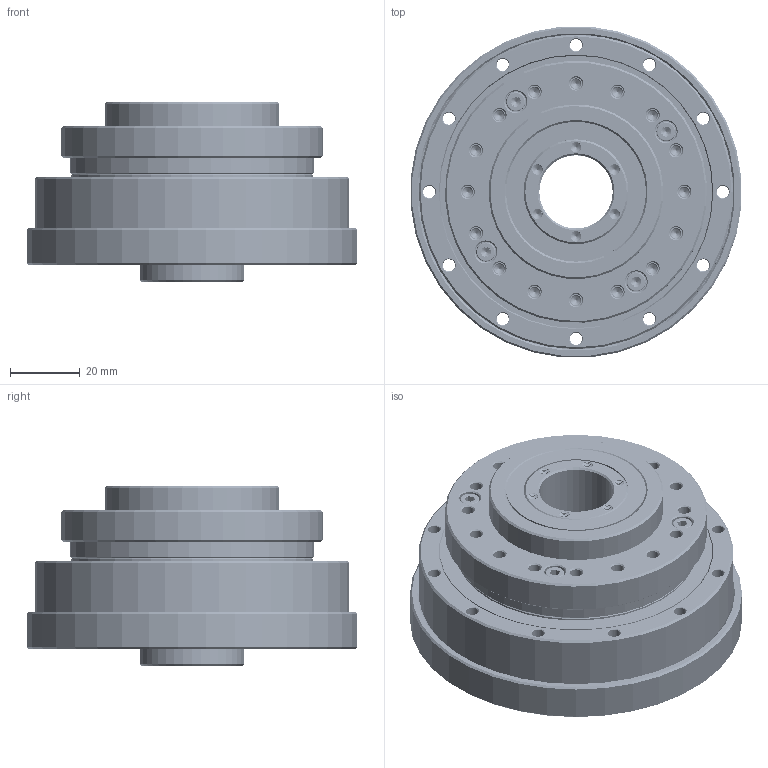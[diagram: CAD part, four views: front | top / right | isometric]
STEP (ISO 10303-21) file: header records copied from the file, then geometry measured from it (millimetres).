
FILE_DESCRIPTION(/* description */ (''),/* implementation_level */ '2;1');
FILE_NAME(/* name */ 'LHT-20-XX-U-III.stp',/* time_stamp */ '2023-07-29T10:55:30+08:00',/* author */ (''),/* organization */ (''),/* preprocessor_version */ 'ST-DEVELOPER v16.7',/* originating_system */ 'SIEMENS PLM Software NX 12.0',/* authorisation */ '');
FILE_SCHEMA (('AUTOMOTIVE_DESIGN { 1 0 10303 214 3 1 1 1 }'));
Products named in the file (19): EB375007-20KC-46; EB375007-20KC-01; TC-69x78x5; SC-30x40x4; GB-T70.1-2000,M3x12; 内六角平圆头螺钉M3x10; GB-T276_60000_2RZ-1994,61806_2RZ; LHT-20-00-III下壳体; LHT-20-00-III上壳体; LHT-20-XX-III; 内六角平圆头螺钉M3x8(4.5mm头径); O-75x1.5; O-55x0.5; GB-T70.1-2000,M3x10; 柔轮LHT-20; 刚轮LHT-20; EB375007-20KC; 交叉轴承LHT-20; LHT-20-XX-U-III
Assembly tree (32 placements, depth 3):
  LHT-20-XX-U-III
    交叉轴承LHT-20
      TC-69x78x5
    刚轮LHT-20
    柔轮LHT-20
    EB375007-20KC
      EB375007-20KC-01
      EB375007-20KC-46
    GB-T70.1-2000,M3x10  x4
    O-55x0.5
    O-75x1.5
    内六角平圆头螺钉M3x8(4.5mm头径)  x4
    LHT-20-XX-III
    LHT-20-00-III上壳体
    LHT-20-00-III下壳体
    GB-T276_60000_2RZ-1994,61806_2RZ  x2
    内六角平圆头螺钉M3x10  x4
    GB-T70.1-2000,M3x12  x4
    SC-30x40x4  x2
Bounding box: 94.64 x 94.64 x 51.5 mm (x, y, z)
Volume: 151470.5 mm3; surface area: 135411.2 mm2
Topology: 99 solids, 100 shells, 1513 faces, 3562 edges, 2185 vertices
Faces by surface type: cone 470, cylinder 448, plane 398, torus 110, sphere 61, bspline 24, revolution 2
Full cylindrical faces by diameter (mm): 2.5 x152, 2.874 x16, 3.5 x92, 4.5 x4, 4.8 x4, 5.5 x12, 6 x12, 21 x2, 21.3 x1, 29.5 x2, 30 x6, 33 x1, 34 x5, 35 x1, 35.7 x1, 37 x2, 38 x4, 38.7 x8, 39.25 x2, 40 x4, 40.64 x1, 42 x4, 44 x1, 46.36 x1, 47.79 x2, 48 x1, 50 x3, 50.71 x1, 51.865 x1, 52.063 x1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
Entity records: 67616 total; most frequent: CARTESIAN_POINT 46426, DIRECTION 4406, ORIENTED_EDGE 2970, AXIS2_PLACEMENT_3D 2108, EDGE_LOOP 1846, FACE_BOUND 1660, EDGE_CURVE 1485, VERTEX_POINT 1307
